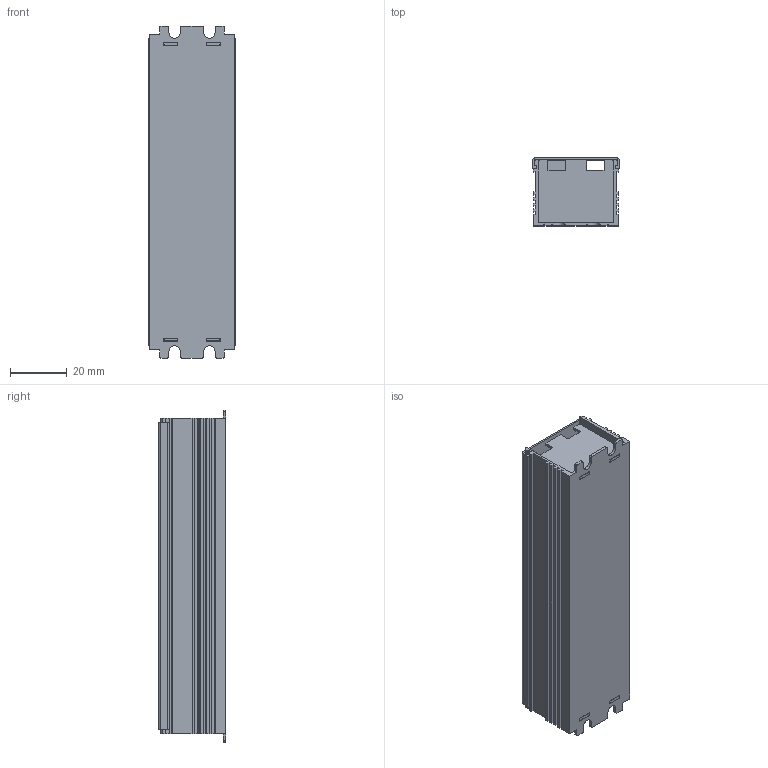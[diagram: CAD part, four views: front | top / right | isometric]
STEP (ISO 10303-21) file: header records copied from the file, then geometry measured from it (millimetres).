
FILE_DESCRIPTION((''),'2;1');
FILE_NAME('SVP_CASE_ASM','2026-03-31T16:22:24',('15365'),(''),'CREO PARAMETRIC BY PTC INC, 2025323','CREO PARAMETRIC BY PTC INC, 2025323','');
FILE_SCHEMA(('CONFIG_CONTROL_DESIGN'));
Length unit declared in the file: millimetre
Products named in the file (5): SVP_BOTTOM; SVP_TOP; SVP_CEGAI; SVP_CEGAI2; SVP_CASE_ASM
Assembly tree (4 placements, depth 2):
  SVP_CASE_ASM
    SVP_BOTTOM
    SVP_TOP
    SVP_CEGAI
    SVP_CEGAI2
Bounding box: 30.5 x 23.8 x 116.7 mm (x, y, z)
Volume: 13657.2 mm3; surface area: 29461.5 mm2
Topology: 4 solids, 4 shells, 302 faces, 882 edges, 588 vertices
Faces by surface type: plane 212, cylinder 90
Entity records: 10109 total; most frequent: CARTESIAN_POINT 1803, ORIENTED_EDGE 1764, DIRECTION 1660, EDGE_CURVE 882, VECTOR 702, LINE 702, VERTEX_POINT 588, AXIS2_PLACEMENT_3D 479
